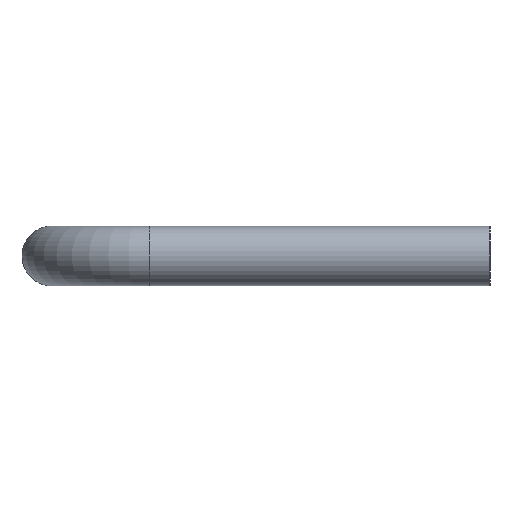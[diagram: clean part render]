
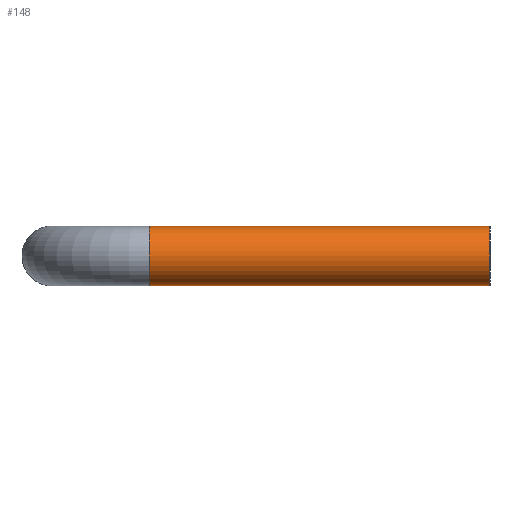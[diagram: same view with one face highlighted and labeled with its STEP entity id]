
A CAD part, left-side view. The second image highlights one B-rep face of the part: STEP entity #148.
In plain terms, the highlighted cylindrical face has radius 8 mm (diameter 16 mm), a full revolution.
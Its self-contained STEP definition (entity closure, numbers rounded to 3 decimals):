
#28=CYLINDRICAL_SURFACE('',#176,8.);
#35=ORIENTED_EDGE('',*,*,#59,.F.);
#36=ORIENTED_EDGE('',*,*,#57,.T.);
#57=EDGE_CURVE('',#69,#69,#83,.T.);
#59=EDGE_CURVE('',#71,#71,#85,.T.);
#69=VERTEX_POINT('',#253);
#71=VERTEX_POINT('',#258);
#83=CIRCLE('',#174,8.);
#85=CIRCLE('',#177,8.);
#97=EDGE_LOOP('',(#35));
#98=EDGE_LOOP('',(#36));
#121=FACE_BOUND('',#97,.T.);
#122=FACE_BOUND('',#98,.T.);
#148=ADVANCED_FACE('',(#121,#122),#28,.T.);
#174=AXIS2_PLACEMENT_3D('',#252,#202,#203);
#176=AXIS2_PLACEMENT_3D('',#256,#206,#207);
#177=AXIS2_PLACEMENT_3D('',#257,#208,#209);
#202=DIRECTION('',(0.,1.,0.));
#203=DIRECTION('',(0.,0.,1.));
#206=DIRECTION('',(0.,1.,0.));
#207=DIRECTION('',(0.,0.,1.));
#208=DIRECTION('',(0.,1.,0.));
#209=DIRECTION('',(0.,0.,1.));
#252=CARTESIAN_POINT('',(-150.,0.,0.));
#253=CARTESIAN_POINT('',(-150.,0.,8.));
#256=CARTESIAN_POINT('',(-150.,91.,0.));
#257=CARTESIAN_POINT('',(-150.,91.,0.));
#258=CARTESIAN_POINT('',(-150.,91.,8.));
